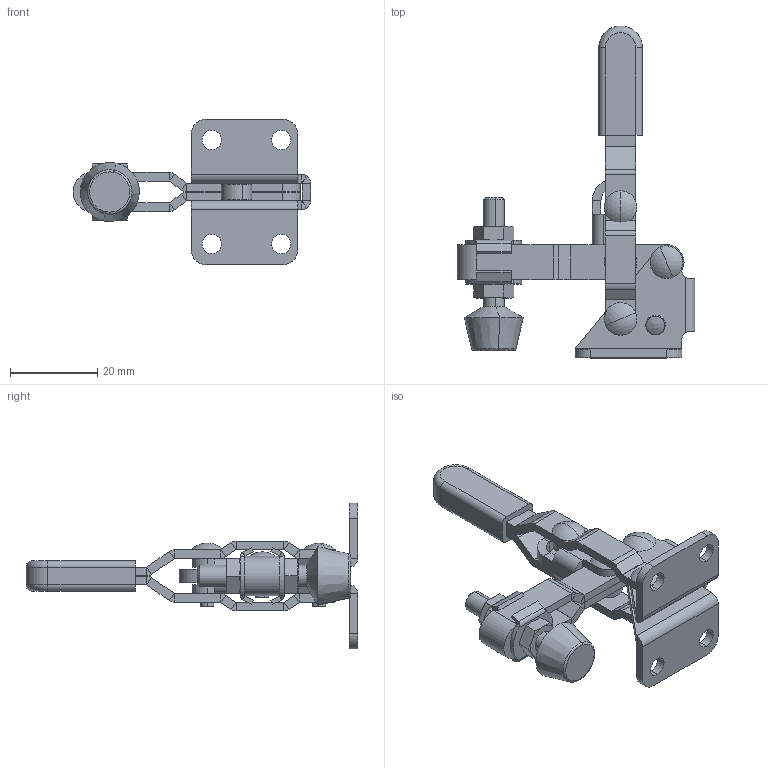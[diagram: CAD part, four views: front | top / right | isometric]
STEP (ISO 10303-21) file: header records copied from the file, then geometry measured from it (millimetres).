
FILE_DESCRIPTION (( 'STEP AP214' ), '1' );
FILE_NAME ('ISK-HV1500.STEP', '2015-06-30T07:27:49', ( '' ), ( '' ), 'SwSTEP 2.0', 'SolidWorks 2015', '' );
FILE_SCHEMA (( 'AUTOMOTIVE_DESIGN' ));
Length unit declared in the file: millimetre
Products named in the file (12): Grip; hexagon nut_3_jis_JIS B 1181 Hexagon nut - Class 3 Finished M5 --N; Rubber bolt_M5×25; Washer_D4-9; Collar7_3.1_4; Link; Handle; Arm; Base; ISK-HV1500; truss head rivets gb_GB_RIVETS_ROUND_TYPE87 3X13; truss head rivets gb_GB_RIVETS_ROUND_TYPE87 3X9
Assembly tree (15 placements, depth 2):
  ISK-HV1500
    Base
    Arm
    Handle
    Link
    Collar7_3.1_4
    Washer_D4-9  x2
    Rubber bolt_M5×25
    hexagon nut_3_jis_JIS B 1181 Hexagon nut - Class 3 Finished M5 --N  x2
    Grip
    truss head rivets gb_GB_RIVETS_ROUND_TYPE87 3X9  x2
    truss head rivets gb_GB_RIVETS_ROUND_TYPE87 3X13  x2
Bounding box: 54.4 x 75.89 x 33.3 mm (x, y, z)
Volume: 10527.9 mm3; surface area: 13392.2 mm2
Topology: 16 solids, 16 shells, 486 faces, 1060 edges, 610 vertices
Faces by surface type: plane 242, cylinder 160, cone 46, bspline 18, torus 12, sphere 8
Entity records: 12410 total; most frequent: CARTESIAN_POINT 2682, DIRECTION 2028, ORIENTED_EDGE 1816, EDGE_CURVE 908, AXIS2_PLACEMENT_3D 760, VERTEX_POINT 522, LINE 508, VECTOR 508
